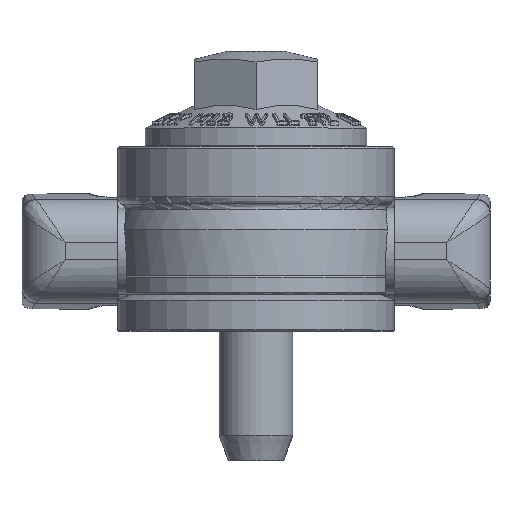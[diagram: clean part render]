
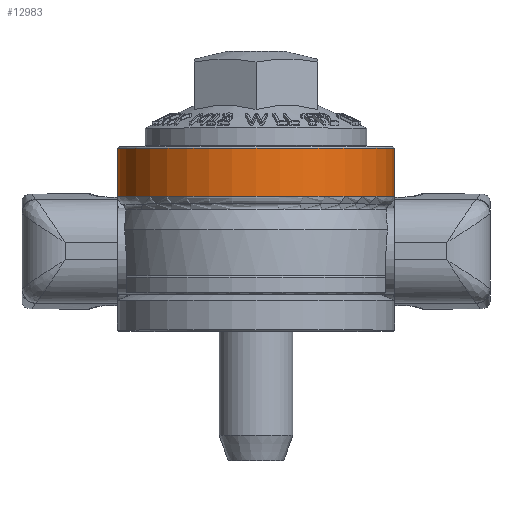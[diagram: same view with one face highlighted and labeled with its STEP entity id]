
A CAD part, top view. The second image highlights one B-rep face of the part: STEP entity #12983.
In plain terms, the highlighted cylindrical face has radius 22.5 mm (diameter 45 mm), a full revolution.
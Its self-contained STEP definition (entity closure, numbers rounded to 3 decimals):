
#521=CYLINDRICAL_SURFACE('',#13890,22.5);
#968=LINE('',#17583,#1632);
#1632=VECTOR('',#14734,22.5);
#2661=FACE_OUTER_BOUND('',#3460,.T.);
#3460=EDGE_LOOP('',(#9023,#9024,#9025,#9026,#9027,#9028));
#4266=CIRCLE('',#13841,22.5);
#4267=CIRCLE('',#13842,22.5);
#4287=CIRCLE('',#13888,22.5);
#4288=CIRCLE('',#13889,22.5);
#5364=VERTEX_POINT('',#17104);
#5365=VERTEX_POINT('',#17105);
#5410=VERTEX_POINT('',#17577);
#5411=VERTEX_POINT('',#17579);
#6717=EDGE_CURVE('',#5364,#5365,#4266,.T.);
#6718=EDGE_CURVE('',#5365,#5364,#4267,.T.);
#6798=EDGE_CURVE('',#5410,#5411,#4287,.T.);
#6799=EDGE_CURVE('',#5411,#5410,#4288,.T.);
#6800=EDGE_CURVE('',#5411,#5364,#968,.T.);
#9023=ORIENTED_EDGE('',*,*,#6798,.F.);
#9024=ORIENTED_EDGE('',*,*,#6799,.F.);
#9025=ORIENTED_EDGE('',*,*,#6800,.T.);
#9026=ORIENTED_EDGE('',*,*,#6717,.T.);
#9027=ORIENTED_EDGE('',*,*,#6718,.T.);
#9028=ORIENTED_EDGE('',*,*,#6800,.F.);
#12983=ADVANCED_FACE('',(#2661),#521,.T.);
#13841=AXIS2_PLACEMENT_3D('',#17106,#14604,#14605);
#13842=AXIS2_PLACEMENT_3D('',#17107,#14606,#14607);
#13888=AXIS2_PLACEMENT_3D('',#17580,#14728,#14729);
#13889=AXIS2_PLACEMENT_3D('',#17581,#14730,#14731);
#13890=AXIS2_PLACEMENT_3D('',#17582,#14732,#14733);
#14604=DIRECTION('center_axis',(0.,0.,-1.));
#14605=DIRECTION('ref_axis',(0.,1.,0.));
#14606=DIRECTION('center_axis',(0.,0.,-1.));
#14607=DIRECTION('ref_axis',(0.,1.,0.));
#14728=DIRECTION('center_axis',(0.,0.,-1.));
#14729=DIRECTION('ref_axis',(0.,-1.,0.));
#14730=DIRECTION('center_axis',(0.,0.,-1.));
#14731=DIRECTION('ref_axis',(0.,-1.,0.));
#14732=DIRECTION('center_axis',(0.,0.,-1.));
#14733=DIRECTION('ref_axis',(0.,1.,0.));
#14734=DIRECTION('',(0.,0.,1.));
#17104=CARTESIAN_POINT('',(0.,-22.5,8.103));
#17105=CARTESIAN_POINT('',(22.5,0.,8.103));
#17106=CARTESIAN_POINT('Origin',(0.,0.,8.103));
#17107=CARTESIAN_POINT('Origin',(0.,0.,8.103));
#17577=CARTESIAN_POINT('',(0.,22.5,0.3));
#17579=CARTESIAN_POINT('',(0.,-22.5,0.3));
#17580=CARTESIAN_POINT('Origin',(0.,0.,0.3));
#17581=CARTESIAN_POINT('Origin',(0.,0.,0.3));
#17582=CARTESIAN_POINT('Origin',(0.,0.,4.051));
#17583=CARTESIAN_POINT('',(0.,-22.5,4.051));
